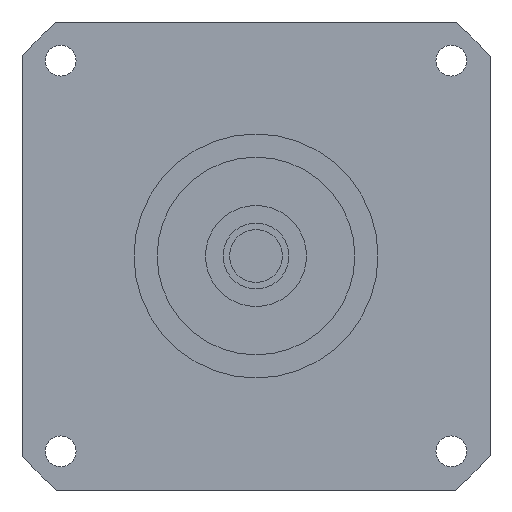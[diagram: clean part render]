
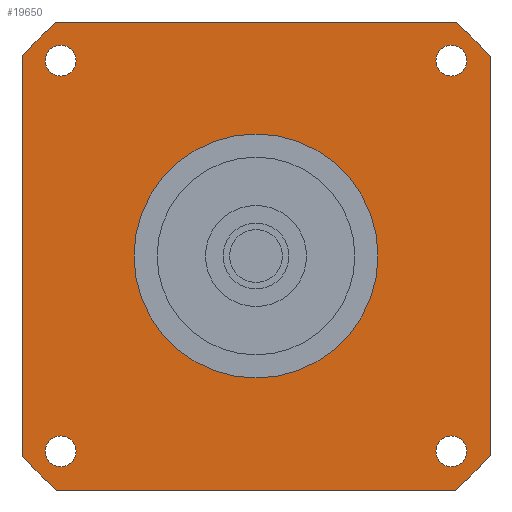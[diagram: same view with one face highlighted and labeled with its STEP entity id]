
A CAD part, left-side view. The second image highlights one B-rep face of the part: STEP entity #19650.
In plain terms, the highlighted planar face has unit normal (-1, 0, 0) as drawn and (0, 0, -1) by its records, which use the part's own axes.
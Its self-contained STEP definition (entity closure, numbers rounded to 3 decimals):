
#14250=CARTESIAN_POINT('',(53.25,45.436,-41.));
#14260=VERTEX_POINT('',#14250);
#14310=CARTESIAN_POINT('',(53.25,53.25,-41.));
#14320=DIRECTION('',(0.,-1.,0.));
#14330=VECTOR('',#14320,1000.);
#14340=LINE('',#14310,#14330);
#14350=CARTESIAN_POINT('',(53.25,-45.436,-41.));
#14360=VERTEX_POINT('',#14350);
#14370=EDGE_CURVE('',#14260,#14360,#14340,.T.);
#18070=CARTESIAN_POINT('',(-40.949,44.449,-41.));
#18080=VERTEX_POINT('',#18070);
#18110=CARTESIAN_POINT('',(-44.449,44.449,-41.));
#18120=DIRECTION('',(0.,0.,-1.));
#18130=DIRECTION('',(-1.,0.,0.));
#18140=AXIS2_PLACEMENT_3D('',#18110,#18120,#18130);
#18150=CIRCLE('',#18140,3.5);
#18160=CARTESIAN_POINT('',(-47.949,44.449,-41.));
#18170=VERTEX_POINT('',#18160);
#18180=EDGE_CURVE('',#18170,#18080,#18150,.T.);
#18300=CARTESIAN_POINT('',(53.25,53.25,-41.));
#18310=DIRECTION('',(0.,0.,-1.));
#18320=DIRECTION('',(1.,0.,0.));
#18330=AXIS2_PLACEMENT_3D('',#18300,#18310,#18320);
#18340=PLANE('',#18330);
#18350=ORIENTED_EDGE('',*,*,#18180,.F.);
#18360=EDGE_CURVE('',#18080,#18170,#18150,.T.);
#18370=ORIENTED_EDGE('',*,*,#18360,.F.);
#18380=EDGE_LOOP('',(#18370,#18350));
#18390=FACE_BOUND('',#18380,.T.);
#18400=CARTESIAN_POINT('',(44.449,44.449,-41.));
#18410=DIRECTION('',(0.,0.,-1.));
#18420=DIRECTION('',(0.,1.,0.));
#18430=AXIS2_PLACEMENT_3D('',#18400,#18410,#18420);
#18440=CIRCLE('',#18430,3.5);
#18450=CARTESIAN_POINT('',(44.449,47.949,-41.));
#18460=VERTEX_POINT('',#18450);
#18470=CARTESIAN_POINT('',(44.449,40.949,-41.));
#18480=VERTEX_POINT('',#18470);
#18490=EDGE_CURVE('',#18460,#18480,#18440,.T.);
#18500=ORIENTED_EDGE('',*,*,#18490,.F.);
#18510=EDGE_CURVE('',#18480,#18460,#18440,.T.);
#18520=ORIENTED_EDGE('',*,*,#18510,.F.);
#18530=EDGE_LOOP('',(#18520,#18500));
#18540=FACE_BOUND('',#18530,.T.);
#18550=CARTESIAN_POINT('',(0.,0.,
-41.));
#18560=DIRECTION('',(0.,0.,1.));
#18570=DIRECTION('',(0.,1.,0.));
#18580=AXIS2_PLACEMENT_3D('',#18550,#18560,#18570);
#18590=CIRCLE('',#18580,27.76);
#18600=CARTESIAN_POINT('',(-27.76,0.,-41.));
#18610=VERTEX_POINT('',#18600);
#18620=CARTESIAN_POINT('',(27.76,0.,-41.));
#18630=VERTEX_POINT('',#18620);
#18640=EDGE_CURVE('',#18610,#18630,#18590,.T.);
#18650=ORIENTED_EDGE('',*,*,#18640,.T.);
#18660=CARTESIAN_POINT('',(0.,27.76,-41.));
#18670=VERTEX_POINT('',#18660);
#18680=EDGE_CURVE('',#18670,#18610,#18590,.T.);
#18690=ORIENTED_EDGE('',*,*,#18680,.T.);
#18700=EDGE_CURVE('',#18630,#18670,#18590,.T.);
#18710=ORIENTED_EDGE('',*,*,#18700,.T.);
#18720=EDGE_LOOP('',(#18710,#18690,#18650));
#18730=FACE_BOUND('',#18720,.T.);
#18740=CARTESIAN_POINT('',(44.449,-44.449,-41.));
#18750=DIRECTION('',(0.,0.,-1.));
#18760=DIRECTION('',(1.,0.,0.));
#18770=AXIS2_PLACEMENT_3D('',#18740,#18750,#18760);
#18780=CIRCLE('',#18770,3.5);
#18790=CARTESIAN_POINT('',(47.949,-44.449,-41.));
#18800=VERTEX_POINT('',#18790);
#18810=CARTESIAN_POINT('',(40.949,-44.449,-41.));
#18820=VERTEX_POINT('',#18810);
#18830=EDGE_CURVE('',#18800,#18820,#18780,.T.);
#18840=ORIENTED_EDGE('',*,*,#18830,.F.);
#18850=EDGE_CURVE('',#18820,#18800,#18780,.T.);
#18860=ORIENTED_EDGE('',*,*,#18850,.F.);
#18870=EDGE_LOOP('',(#18860,#18840));
#18880=FACE_BOUND('',#18870,.T.);
#18890=CARTESIAN_POINT('',(-44.449,-44.449,-41.));
#18900=DIRECTION('',(0.,0.,-1.));
#18910=DIRECTION('',(0.,-1.,0.));
#18920=AXIS2_PLACEMENT_3D('',#18890,#18900,#18910);
#18930=CIRCLE('',#18920,3.5);
#18940=CARTESIAN_POINT('',(-44.449,-47.949,-41.));
#18950=VERTEX_POINT('',#18940);
#18960=CARTESIAN_POINT('',(-44.449,-40.949,-41.));
#18970=VERTEX_POINT('',#18960);
#18980=EDGE_CURVE('',#18950,#18970,#18930,.T.);
#18990=ORIENTED_EDGE('',*,*,#18980,.F.);
#19000=EDGE_CURVE('',#18970,#18950,#18930,.T.);
#19010=ORIENTED_EDGE('',*,*,#19000,.F.);
#19020=EDGE_LOOP('',(#19010,#18990));
#19030=FACE_BOUND('',#19020,.T.);
#19040=CARTESIAN_POINT('',(-53.25,53.25,-41.));
#19050=DIRECTION('',(1.,0.,0.));
#19060=VECTOR('',#19050,1000.);
#19070=LINE('',#19040,#19060);
#19080=CARTESIAN_POINT('',(-45.436,53.25,-41.));
#19090=VERTEX_POINT('',#19080);
#19100=CARTESIAN_POINT('',(45.436,53.25,-41.));
#19110=VERTEX_POINT('',#19100);
#19120=EDGE_CURVE('',#19090,#19110,#19070,.T.);
#19130=ORIENTED_EDGE('',*,*,#19120,.T.);
#19140=CARTESIAN_POINT('',(0.,0.,-41.));
#19150=DIRECTION('',(0.,0.,-1.));
#19160=DIRECTION('',(1.,0.,0.));
#19170=AXIS2_PLACEMENT_3D('',#19140,#19150,#19160);
#19180=CIRCLE('',#19170,70.);
#19190=CARTESIAN_POINT('',(-53.25,45.436,-41.));
#19200=VERTEX_POINT('',#19190);
#19210=EDGE_CURVE('',#19200,#19090,#19180,.T.);
#19220=ORIENTED_EDGE('',*,*,#19210,.T.);
#19230=CARTESIAN_POINT('',(-53.25,-53.25,-41.));
#19240=DIRECTION('',(0.,1.,0.));
#19250=VECTOR('',#19240,1000.);
#19260=LINE('',#19230,#19250);
#19270=CARTESIAN_POINT('',(-53.25,-45.436,-41.));
#19280=VERTEX_POINT('',#19270);
#19290=EDGE_CURVE('',#19280,#19200,#19260,.T.);
#19300=ORIENTED_EDGE('',*,*,#19290,.T.);
#19310=CARTESIAN_POINT('',(0.,0.,-41.));
#19320=DIRECTION('',(0.,0.,-1.));
#19330=DIRECTION('',(1.,0.,0.));
#19340=AXIS2_PLACEMENT_3D('',#19310,#19320,#19330);
#19350=CIRCLE('',#19340,70.);
#19360=CARTESIAN_POINT('',(-45.436,-53.25,-41.));
#19370=VERTEX_POINT('',#19360);
#19380=EDGE_CURVE('',#19370,#19280,#19350,.T.);
#19390=ORIENTED_EDGE('',*,*,#19380,.T.);
#19400=CARTESIAN_POINT('',(53.25,-53.25,-41.));
#19410=DIRECTION('',(-1.,0.,0.));
#19420=VECTOR('',#19410,1000.);
#19430=LINE('',#19400,#19420);
#19440=CARTESIAN_POINT('',(45.436,-53.25,-41.));
#19450=VERTEX_POINT('',#19440);
#19460=EDGE_CURVE('',#19450,#19370,#19430,.T.);
#19470=ORIENTED_EDGE('',*,*,#19460,.T.);
#19480=CARTESIAN_POINT('',(0.,0.,-41.));
#19490=DIRECTION('',(0.,0.,-1.));
#19500=DIRECTION('',(1.,0.,0.));
#19510=AXIS2_PLACEMENT_3D('',#19480,#19490,#19500);
#19520=CIRCLE('',#19510,70.);
#19530=EDGE_CURVE('',#14360,#19450,#19520,.T.);
#19540=ORIENTED_EDGE('',*,*,#19530,.T.);
#19550=ORIENTED_EDGE('',*,*,#14370,.T.);
#19560=CARTESIAN_POINT('',(0.,0.,-41.));
#19570=DIRECTION('',(0.,0.,-1.));
#19580=DIRECTION('',(1.,0.,0.));
#19590=AXIS2_PLACEMENT_3D('',#19560,#19570,#19580);
#19600=CIRCLE('',#19590,70.);
#19610=EDGE_CURVE('',#19110,#14260,#19600,.T.);
#19620=ORIENTED_EDGE('',*,*,#19610,.T.);
#19630=EDGE_LOOP('',(#19620,#19550,#19540,#19470,#19390,#19300,#19220,
#19130));
#19640=FACE_OUTER_BOUND('',#19630,.T.);
#19650=ADVANCED_FACE('',(#18390,#18540,#18730,#18880,#19030,#19640),
#18340,.T.);
